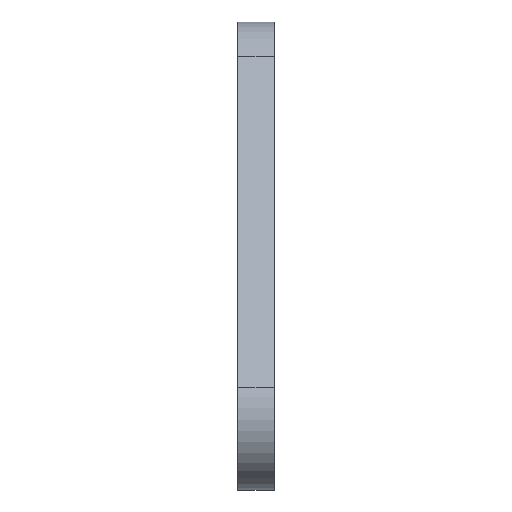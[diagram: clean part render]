
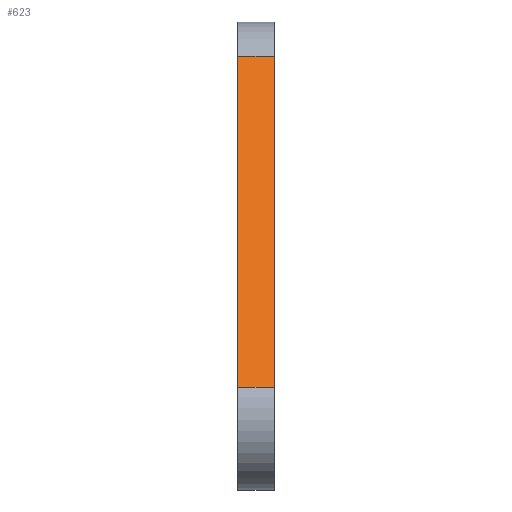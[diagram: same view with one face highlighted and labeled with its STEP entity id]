
A CAD part, top view. The second image highlights one B-rep face of the part: STEP entity #623.
In plain terms, the highlighted planar face has unit normal (0, 0.5, 0.866).
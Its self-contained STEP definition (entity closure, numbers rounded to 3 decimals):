
#31=PLANE('',#717);
#63=FACE_OUTER_BOUND('',#100,.T.);
#100=EDGE_LOOP('',(#535,#536,#537,#538));
#111=LINE('',#947,#153);
#122=LINE('',#1013,#164);
#124=LINE('',#1022,#166);
#148=LINE('',#1104,#190);
#153=VECTOR('',#743,10.);
#164=VECTOR('',#808,10.);
#166=VECTOR('',#820,10.);
#190=VECTOR('',#920,10.);
#247=VERTEX_POINT('',#944);
#248=VERTEX_POINT('',#946);
#276=VERTEX_POINT('',#1012);
#278=VERTEX_POINT('',#1020);
#309=EDGE_CURVE('',#247,#248,#111,.T.);
#342=EDGE_CURVE('',#248,#276,#122,.T.);
#347=EDGE_CURVE('',#247,#278,#124,.T.);
#388=EDGE_CURVE('',#276,#278,#148,.T.);
#535=ORIENTED_EDGE('',*,*,#309,.F.);
#536=ORIENTED_EDGE('',*,*,#347,.T.);
#537=ORIENTED_EDGE('',*,*,#388,.F.);
#538=ORIENTED_EDGE('',*,*,#342,.F.);
#623=ADVANCED_FACE('',(#63),#31,.T.);
#717=AXIS2_PLACEMENT_3D('',#1103,#918,#919);
#743=DIRECTION('',(0.,0.866,-0.5));
#808=DIRECTION('',(1.,0.,0.));
#820=DIRECTION('',(1.,0.,0.));
#918=DIRECTION('center_axis',(0.,0.5,0.866));
#919=DIRECTION('ref_axis',(0.,-0.866,0.5));
#920=DIRECTION('',(0.,-0.866,0.5));
#944=CARTESIAN_POINT('',(11.551,10.398,77.914));
#946=CARTESIAN_POINT('',(11.551,24.149,69.975));
#947=CARTESIAN_POINT('',(11.551,10.398,77.914));
#1012=CARTESIAN_POINT('',(13.051,24.149,69.975));
#1013=CARTESIAN_POINT('',(11.551,24.149,69.975));
#1020=CARTESIAN_POINT('',(13.051,10.398,77.914));
#1022=CARTESIAN_POINT('',(11.551,10.398,77.914));
#1103=CARTESIAN_POINT('Origin',(11.551,24.149,69.975));
#1104=CARTESIAN_POINT('',(13.051,10.398,77.914));
